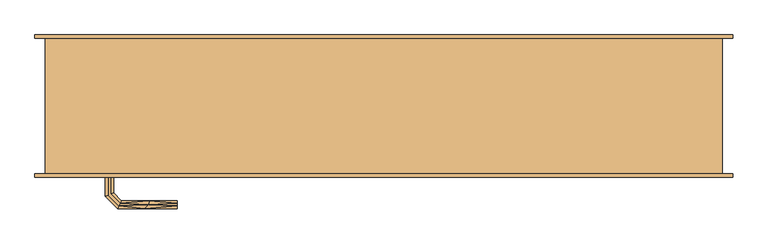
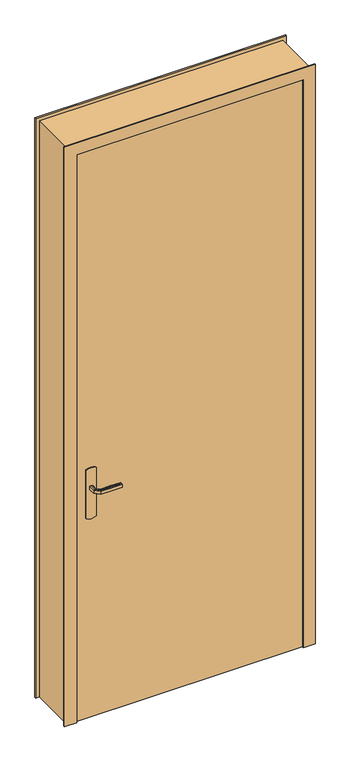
"""IFC4 building model written with IfcOpenShell, lengths in millimetres: door geometry, PP EXT - Local poubelle  (0.93m x 2.50m)."""

from ifc_helpers import new_model, si_unit, frame, origin, origin_with_axes, place, context, project, spatial, polyline, outline, extrude, faceted_brep, source, transform, mapped, element, save


def door_8fc1c855(model_context):
    return source(origin(), model_context, "Body", "SolidModel", [
        faceted_brep([(92.9747013, 45.0, 1007.7804408), (89.0, 45.0, 1007.0), (89.0, 45.0, 993.0), (92.9747013, 45.0, 992.2195592), (97.0252987, 45.0, 992.2195592), (101.0, 45.0, 993.0), (101.0, 45.0, 1007.0), (97.0252987, 45.0, 1007.7804408), (101.0, 67.4852045, 993.0), (101.0, 67.4852045, 1007.0), (97.0252987, 69.1315797, 1007.7804408), (110.8389062, 82.9451872, 1007.7804408), (109.1610938, 86.9957845, 1007.7804408), (92.9747013, 70.8093921, 1007.7804408), (89.0, 72.4557673, 1007.0), (89.0, 72.4557673, 993.0), (92.9747013, 70.8093921, 992.2195592), (109.1610938, 86.9957845, 992.2195592), (110.8389062, 82.9451872, 992.2195592), (97.0252987, 69.1315797, 992.2195592), (112.4852814, 78.9704859, 993.0), (112.4852814, 78.9704859, 1007.0), (107.5147186, 90.9704859, 1007.0), (107.5147186, 90.9704859, 993.0), (195.0457837, 78.9704859, 993.0), (195.0457837, 82.9451872, 992.2195592), (195.0457837, 86.9957845, 992.2195592), (195.0457837, 90.9704859, 993.0), (195.0457837, 90.9704859, 1007.0), (195.0457837, 86.9957845, 1007.7804408), (195.0457837, 82.9451872, 1007.7804408), (195.0457837, 78.9704859, 1007.0), (153.7655206, 78.9704859, 993.0), (153.7655325, 78.9704859, 1007.0), (152.9423449, 84.9704859, 1007.8786868), (147.4452058, 90.9704859, 1007.0), (147.4452043, 90.9704859, 993.0), (152.9423451, 84.9704858, 992.1213132)], [[[0, 1, 2, 3, 4, 5, 6, 7]], [[6, 5, 8, 9]], [[9, 10, 7, 6]], [[10, 11, 12, 13, 0, 7]], [[13, 14, 1, 0]], [[2, 1, 14, 15]], [[15, 16, 3, 2]], [[16, 17, 18, 19, 4, 3]], [[19, 8, 5, 4]], [[9, 8, 20, 21]], [[21, 11, 10, 9]], [[12, 22, 14, 13]], [[15, 14, 22, 23]], [[23, 17, 16, 15]], [[18, 20, 8, 19]], [[24, 25, 26, 27, 28, 29, 30, 31]], [[21, 20, 32, 24, 31, 33]], [[33, 30, 34]], [[35, 34, 29]], [[21, 33, 11]], [[33, 31, 30]], [[28, 35, 29]], [[22, 12, 35]], [[35, 12, 34]], [[12, 11, 34]], [[11, 33, 34]], [[29, 34, 30]], [[22, 35, 28, 27, 36, 23]], [[36, 26, 37]], [[27, 26, 36]], [[17, 23, 36]], [[37, 32, 18]], [[20, 18, 32]], [[32, 25, 24]], [[26, 25, 37]], [[25, 32, 37]], [[17, 36, 37]], [[17, 37, 18]]]),
        faceted_brep([(92.9747013, -5.0, 1007.7804408), (97.0252987, -5.0, 1007.7804408), (101.0, -5.0, 1007.0), (101.0, -5.0, 993.0), (97.0252987, -5.0, 992.2195592), (92.9747013, -5.0, 992.2195592), (89.0, -5.0, 993.0), (89.0, -5.0, 1007.0), (89.0, -32.6509507, 1007.0), (92.9747013, -31.0045755, 1007.7804408), (109.0235852, -47.0534593, 1007.7804408), (110.7013975, -43.002862, 1007.7804408), (97.0252987, -29.3267632, 1007.7804408), (101.0, -27.680388, 1007.0), (101.0, -27.680388, 993.0), (97.0252987, -29.3267632, 992.2195592), (110.7013975, -43.002862, 992.2195592), (109.0235852, -47.0534593, 992.2195592), (92.9747013, -31.0045755, 992.2195592), (89.0, -32.6509507, 993.0), (107.37721, -51.0281607, 1007.0), (112.3477727, -39.0281607, 1007.0), (112.3477727, -39.0281607, 993.0), (107.37721, -51.0281607, 993.0), (195.0186406, -51.0281607, 993.0), (195.0186406, -47.0534593, 992.2195592), (195.0186406, -43.002862, 992.2195592), (195.0186406, -39.0281607, 993.0), (195.0186406, -39.0281607, 1007.0), (195.0186406, -43.002862, 1007.7804408), (195.0186406, -47.0534593, 1007.7804408), (195.0186406, -51.0281607, 1007.0), (147.3076972, -51.0281607, 1007.0), (152.8600191, -45.0281607, 1007.8786868), (153.6832067, -39.0281607, 1007.0), (153.6832067, -39.0281607, 993.0), (152.8600189, -45.0281608, 992.1213132), (147.3077002, -51.0281607, 993.0)], [[[0, 1, 2, 3, 4, 5, 6, 7]], [[8, 9, 0, 7]], [[9, 10, 11, 12, 1, 0]], [[12, 13, 2, 1]], [[3, 2, 13, 14]], [[14, 15, 4, 3]], [[15, 16, 17, 18, 5, 4]], [[18, 19, 6, 5]], [[7, 6, 19, 8]], [[20, 10, 9, 8]], [[11, 21, 13, 12]], [[14, 13, 21, 22]], [[22, 16, 15, 14]], [[17, 23, 19, 18]], [[8, 19, 23, 20]], [[24, 25, 26, 27, 28, 29, 30, 31]], [[32, 30, 33]], [[31, 30, 32]], [[10, 20, 32]], [[33, 34, 11]], [[21, 11, 34]], [[34, 29, 28]], [[30, 29, 33]], [[29, 34, 33]], [[10, 32, 33]], [[10, 33, 11]], [[22, 21, 34, 28, 27, 35]], [[35, 26, 36]], [[37, 36, 25]], [[22, 35, 16]], [[35, 27, 26]], [[24, 37, 25]], [[23, 17, 37]], [[37, 17, 36]], [[17, 16, 36]], [[16, 35, 36]], [[25, 36, 26]], [[20, 23, 37, 24, 31, 32]]]),
        extrude(outline(polyline([(866.0039831, 105.3527618), (870.0, 115.0), (1080.0, 115.0), (1083.9960169, 105.3527618), (1085.3589838, 95.0), (1083.9960169, 84.6472382), (1080.0, 75.0), (870.0, 75.0), (866.0039831, 84.6472382), (864.6410162, 95.0), (866.0039831, 105.3527618)])), frame((0.0, -5.0, 0.0), z_axis=(0.0, 1.0, 0.0), x_axis=(0.0, 0.0, 1.0)), (0.0, 0.0, 1.0), 5.0),
        extrude(outline(polyline([(35.0, 40.0), (965.0, 40.0), (965.0, 0.0), (35.0, 0.0), (35.0, 40.0)])), origin_with_axes(), (0.0, 0.0, 1.0), 2465.0),
        extrude(outline(polyline([(866.0039831, 105.3527618), (870.0, 115.0), (1080.0, 115.0), (1083.9960169, 105.3527618), (1085.3589838, 95.0), (1083.9960169, 84.6472382), (1080.0, 75.0), (870.0, 75.0), (866.0039831, 84.6472382), (864.6410162, 95.0), (866.0039831, 105.3527618)])), frame((0.0, 40.0, 0.0), z_axis=(0.0, 1.0, 0.0), x_axis=(0.0, 0.0, 1.0)), (0.0, 0.0, 1.0), 5.0),
        faceted_brep([(0.0, 200.0, 0.0), (-15.0, 200.0, 0.0), (-15.0, 205.0, 0.0), (50.0, 205.0, 0.0), (50.0, 40.0, 0.0), (35.0, 40.0, 0.0), (35.0, -5.0, 0.0), (-15.0, -5.0, 0.0), (-15.0, 0.0, 0.0), (0.0, 0.0, 0.0), (0.0, 200.0, 2500.0), (1000.0, 200.0, 2500.0), (1000.0, 200.0, 0.0), (1015.0, 200.0, 0.0), (1015.0, 200.0, 2515.0), (-15.0, 200.0, 2515.0), (-15.0, 205.0, 2515.0), (1015.0, 205.0, 2515.0), (1015.0, 205.0, 0.0), (950.0, 205.0, 0.0), (950.0, 205.0, 2450.0), (50.0, 205.0, 2450.0), (50.0, 40.0, 2450.0), (950.0, 40.0, 2450.0), (950.0, 40.0, 0.0), (965.0, 40.0, 0.0), (965.0, 40.0, 2465.0), (35.0, 40.0, 2465.0), (35.0, -5.0, 2465.0), (965.0, -5.0, 2465.0), (965.0, -5.0, 0.0), (1015.0, -5.0, 0.0), (1015.0, -5.0, 2515.0), (-15.0, -5.0, 2515.0), (-15.0, 0.0, 2515.0), (1015.0, 0.0, 2515.0), (1015.0, 0.0, 0.0), (1000.0, 0.0, 0.0), (1000.0, 0.0, 2500.0), (0.0, 0.0, 2500.0)], [[[0, 1, 2, 3, 4, 5, 6, 7, 8, 9]], [[1, 0, 10, 11, 12, 13, 14, 15]], [[2, 1, 15, 16]], [[3, 2, 16, 17, 18, 19, 20, 21]], [[3, 21, 22, 4]], [[5, 4, 22, 23, 24, 25, 26, 27]], [[5, 27, 28, 6]], [[7, 6, 28, 29, 30, 31, 32, 33]], [[8, 7, 33, 34]], [[9, 8, 34, 35, 36, 37, 38, 39]], [[0, 9, 39, 10]], [[11, 38, 37, 12]], [[12, 37, 36, 31, 30, 25, 24, 19, 18, 13]], [[17, 14, 13, 18]], [[23, 20, 19, 24]], [[29, 26, 25, 30]], [[35, 32, 31, 36]], [[16, 15, 14, 17]], [[22, 21, 20, 23]], [[28, 27, 26, 29]], [[34, 33, 32, 35]], [[10, 39, 38, 11]]]),
    ])


if __name__ == "__main__":
    model = new_model("IFC4")
    model_context = context("Model", 3, world=origin())
    ifc_project = project(units=[si_unit("LENGTHUNIT", "METRE", prefix="MILLI")], contexts=[model_context])
    site = spatial("IfcSite", under=ifc_project)
    building = spatial("IfcBuilding", under=site)
    placement = place(None, origin())
    door_shape = door_8fc1c855(model_context)
    element("IfcDoor", 1, ObjectType="PP EXT - Local poubelle  (0.93m x 2.50m)", at=placement, inside=building, context=model_context, shape_type="MappedRepresentation", body=[
        mapped(door_shape, transform((0.0, 0.0, 0.0), x_axis=(1.0, 0.0, 0.0), y_axis=(0.0, 1.0, 0.0), z_axis=(0.0, 0.0, 1.0))),
    ])
    save(model, "model.ifc")
